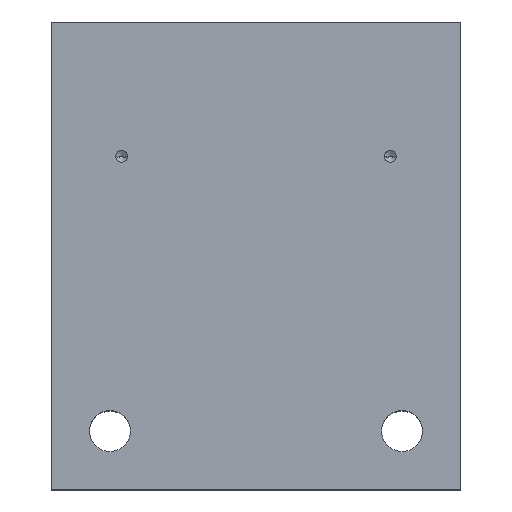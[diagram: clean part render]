
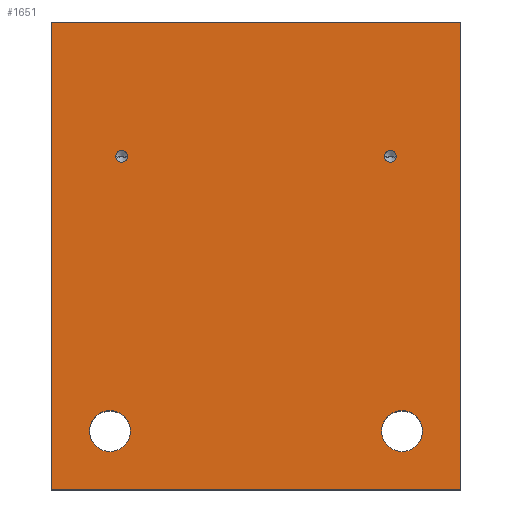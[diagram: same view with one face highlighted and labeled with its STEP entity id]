
A CAD part, top view. The second image highlights one B-rep face of the part: STEP entity #1651.
In plain terms, the highlighted planar face has unit normal (0, 0, 1).
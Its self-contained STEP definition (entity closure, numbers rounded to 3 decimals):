
#119=DIRECTION('',(0.,-1.,0.));
#120=VECTOR('',#119,80.);
#121=CARTESIAN_POINT('',(-35.,40.,20.));
#122=LINE('',#121,#120);
#123=DIRECTION('',(-1.,0.,0.));
#124=VECTOR('',#123,70.);
#125=CARTESIAN_POINT('',(35.,40.,20.));
#126=LINE('',#125,#124);
#127=DIRECTION('',(0.,1.,0.));
#128=VECTOR('',#127,80.);
#129=CARTESIAN_POINT('',(35.,-40.,20.));
#130=LINE('',#129,#128);
#131=DIRECTION('',(1.,0.,0.));
#132=VECTOR('',#131,70.);
#133=CARTESIAN_POINT('',(-35.,-40.,20.));
#134=LINE('',#133,#132);
#135=CARTESIAN_POINT('',(25.,-30.,20.));
#136=DIRECTION('',(0.,0.,-1.));
#137=DIRECTION('',(-1.,0.,0.));
#138=AXIS2_PLACEMENT_3D('',#135,#136,#137);
#140=CARTESIAN_POINT('',(25.,-30.,20.));
#141=DIRECTION('',(0.,0.,-1.));
#142=DIRECTION('',(1.,0.,0.));
#143=AXIS2_PLACEMENT_3D('',#140,#141,#142);
#145=CARTESIAN_POINT('',(-25.,-30.,20.));
#146=DIRECTION('',(0.,0.,-1.));
#147=DIRECTION('',(-1.,0.,0.));
#148=AXIS2_PLACEMENT_3D('',#145,#146,#147);
#150=CARTESIAN_POINT('',(-25.,-30.,20.));
#151=DIRECTION('',(0.,0.,-1.));
#152=DIRECTION('',(1.,0.,0.));
#153=AXIS2_PLACEMENT_3D('',#150,#151,#152);
#155=CARTESIAN_POINT('',(-23.,17.,20.));
#156=DIRECTION('',(0.,0.,1.));
#157=DIRECTION('',(-1.,0.,0.));
#158=AXIS2_PLACEMENT_3D('',#155,#156,#157);
#160=CARTESIAN_POINT('',(-23.,17.,20.));
#161=DIRECTION('',(0.,0.,1.));
#162=DIRECTION('',(1.,0.,0.));
#163=AXIS2_PLACEMENT_3D('',#160,#161,#162);
#165=CARTESIAN_POINT('',(23.,17.,20.));
#166=DIRECTION('',(0.,0.,1.));
#167=DIRECTION('',(-1.,0.,0.));
#168=AXIS2_PLACEMENT_3D('',#165,#166,#167);
#170=CARTESIAN_POINT('',(23.,17.,20.));
#171=DIRECTION('',(0.,0.,1.));
#172=DIRECTION('',(1.,0.,0.));
#173=AXIS2_PLACEMENT_3D('',#170,#171,#172);
#1269=CARTESIAN_POINT('',(-35.,40.,20.));
#1270=CARTESIAN_POINT('',(-35.,-40.,20.));
#1271=VERTEX_POINT('',#1269);
#1272=VERTEX_POINT('',#1270);
#1273=CARTESIAN_POINT('',(35.,-40.,20.));
#1274=VERTEX_POINT('',#1273);
#1275=CARTESIAN_POINT('',(35.,40.,20.));
#1276=VERTEX_POINT('',#1275);
#1281=CARTESIAN_POINT('',(21.5,-30.,20.));
#1282=CARTESIAN_POINT('',(28.5,-30.,20.));
#1283=VERTEX_POINT('',#1281);
#1284=VERTEX_POINT('',#1282);
#1289=CARTESIAN_POINT('',(-28.5,-30.,20.));
#1290=CARTESIAN_POINT('',(-21.5,-30.,20.));
#1291=VERTEX_POINT('',#1289);
#1292=VERTEX_POINT('',#1290);
#1299=CARTESIAN_POINT('',(-24.,17.,20.));
#1300=CARTESIAN_POINT('',(-22.,17.,20.));
#1301=VERTEX_POINT('',#1299);
#1302=VERTEX_POINT('',#1300);
#1309=CARTESIAN_POINT('',(22.,17.,20.));
#1310=CARTESIAN_POINT('',(24.,17.,20.));
#1311=VERTEX_POINT('',#1309);
#1312=VERTEX_POINT('',#1310);
#1616=CARTESIAN_POINT('',(0.,0.,20.));
#1617=DIRECTION('',(0.,0.,1.));
#1618=DIRECTION('',(1.,0.,0.));
#1619=AXIS2_PLACEMENT_3D('',#1616,#1617,#1618);
#1620=PLANE('',#1619);
#1621=ORIENTED_EDGE('',*,*,#1510,.F.);
#1622=ORIENTED_EDGE('',*,*,#1538,.F.);
#1623=ORIENTED_EDGE('',*,*,#1565,.F.);
#1624=ORIENTED_EDGE('',*,*,#1597,.F.);
#1625=EDGE_LOOP('',(#1621,#1622,#1623,#1624));
#1626=FACE_OUTER_BOUND('',#1625,.F.);
#1628=ORIENTED_EDGE('',*,*,#1627,.F.);
#1630=ORIENTED_EDGE('',*,*,#1629,.F.);
#1631=EDGE_LOOP('',(#1628,#1630));
#1632=FACE_BOUND('',#1631,.F.);
#1634=ORIENTED_EDGE('',*,*,#1633,.F.);
#1636=ORIENTED_EDGE('',*,*,#1635,.F.);
#1637=EDGE_LOOP('',(#1634,#1636));
#1638=FACE_BOUND('',#1637,.F.);
#1640=ORIENTED_EDGE('',*,*,#1639,.T.);
#1642=ORIENTED_EDGE('',*,*,#1641,.T.);
#1643=EDGE_LOOP('',(#1640,#1642));
#1644=FACE_BOUND('',#1643,.F.);
#1646=ORIENTED_EDGE('',*,*,#1645,.T.);
#1648=ORIENTED_EDGE('',*,*,#1647,.T.);
#1649=EDGE_LOOP('',(#1646,#1648));
#1650=FACE_BOUND('',#1649,.F.);
#139=CIRCLE('',#138,3.5);
#144=CIRCLE('',#143,3.5);
#149=CIRCLE('',#148,3.5);
#154=CIRCLE('',#153,3.5);
#159=CIRCLE('',#158,1.);
#164=CIRCLE('',#163,1.);
#169=CIRCLE('',#168,1.);
#174=CIRCLE('',#173,1.);
#1510=EDGE_CURVE('',#1271,#1272,#122,.T.);
#1538=EDGE_CURVE('',#1276,#1271,#126,.T.);
#1565=EDGE_CURVE('',#1274,#1276,#130,.T.);
#1597=EDGE_CURVE('',#1272,#1274,#134,.T.);
#1627=EDGE_CURVE('',#1283,#1284,#139,.T.);
#1629=EDGE_CURVE('',#1284,#1283,#144,.T.);
#1633=EDGE_CURVE('',#1291,#1292,#149,.T.);
#1635=EDGE_CURVE('',#1292,#1291,#154,.T.);
#1639=EDGE_CURVE('',#1301,#1302,#159,.T.);
#1641=EDGE_CURVE('',#1302,#1301,#164,.T.);
#1645=EDGE_CURVE('',#1311,#1312,#169,.T.);
#1647=EDGE_CURVE('',#1312,#1311,#174,.T.);
#1651=ADVANCED_FACE('',(#1626,#1632,#1638,#1644,#1650),#1620,.T.);
